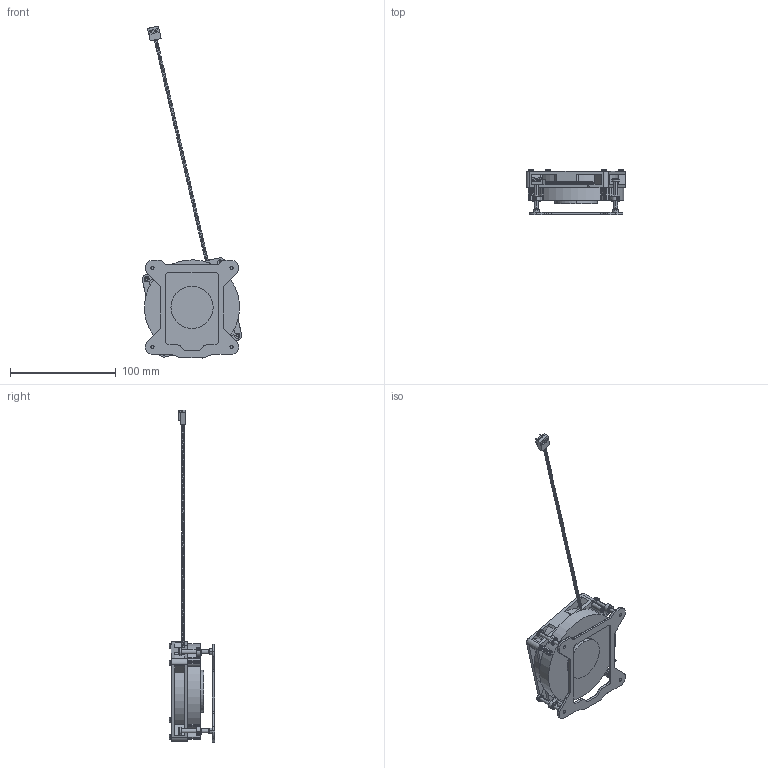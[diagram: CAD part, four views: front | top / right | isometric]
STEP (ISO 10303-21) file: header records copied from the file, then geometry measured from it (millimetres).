
FILE_DESCRIPTION((''),'2;1');
FILE_NAME('RG3129-30-002_ME_ASM','2022-11-03T',('User'),(''),'PRO/ENGINEER BY PARAMETRIC TECHNOLOGY CORPORATION, 2017170','PRO/ENGINEER BY PARAMETRIC TECHNOLOGY CORPORATION, 2017170','');
FILE_SCHEMA(('CONFIG_CONTROL_DESIGN'));
Length unit declared in the file: millimetre
Products named in the file (18): D90X15_A_C___SINK__3; CU-PIN_15_1; D90_15H_AC_ASSY_ASM_1_ASM; DEAKTOP_SCREW_D7_30_8L_1; E-RING_1; DESKTOP_SCREW_ASSY_ASM_1_ASM; DESKTOP_D90_15H_AC_ASSY_ASM_1_ASM; 230FR08015A0013_3; 4P-PLUGZ__VORTEX__1; FAN_SCREW_T3X25MM_1; 1_1; LABEL_R30_1_1; AD0812VB-D7B_NS75__1_ASM_1_ASM; 850-BP1156_1; MYLER_1; 850-BP1156_ASSY__ASM_1_ASM; RG3129-30-002_ASM_1_ASM; RG3129-30-002_ME_ASM
Assembly tree (23 placements, depth 5):
  RG3129-30-002_ME_ASM
    RG3129-30-002_ASM_1_ASM
      DESKTOP_D90_15H_AC_ASSY_ASM_1_ASM
        D90_15H_AC_ASSY_ASM_1_ASM
          D90X15_A_C___SINK__3
          CU-PIN_15_1
        DESKTOP_SCREW_ASSY_ASM_1_ASM  x4
          DEAKTOP_SCREW_D7_30_8L_1
          E-RING_1
      AD0812VB-D7B_NS75__1_ASM_1_ASM
        230FR08015A0013_3
        4P-PLUGZ__VORTEX__1
        FAN_SCREW_T3X25MM_1  x4
        1_1
        LABEL_R30_1_1
      850-BP1156_ASSY__ASM_1_ASM
        850-BP1156_1
        MYLER_1
Bounding box: 94.24 x 43.1 x 314.61 mm (x, y, z)
Volume: 166497.7 mm3; surface area: 78809.8 mm2
Topology: 20 solids, 34 shells, 2908 faces, 7774 edges, 4994 vertices
Faces by surface type: plane 1452, bspline 688, cylinder 620, extrusion 95, torus 34, cone 19
Entity records: 130530 total; most frequent: CARTESIAN_POINT 85523, ORIENTED_EDGE 10426, DIRECTION 7085, EDGE_CURVE 5255, VERTEX_POINT 3329, VECTOR 2617, LINE 2522, AXIS2_PLACEMENT_3D 2234
